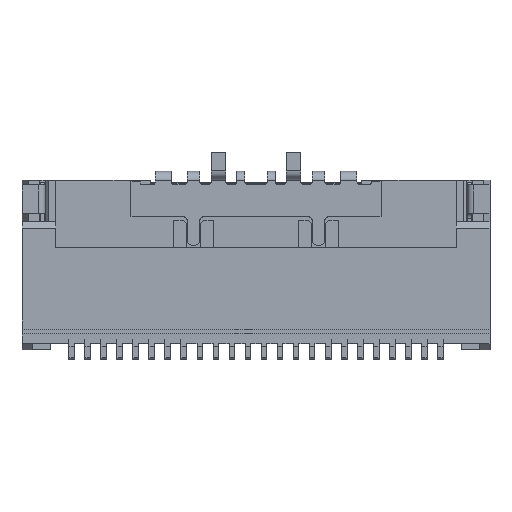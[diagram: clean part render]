
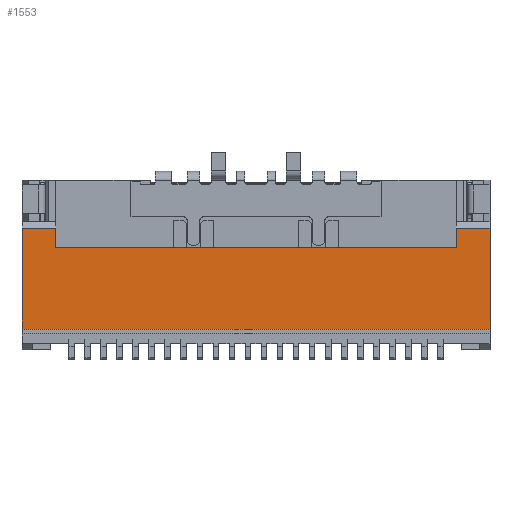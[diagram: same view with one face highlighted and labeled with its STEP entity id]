
A CAD part, front view. The second image highlights one B-rep face of the part: STEP entity #1553.
In plain terms, the highlighted planar face has unit normal (0, -1, 0).
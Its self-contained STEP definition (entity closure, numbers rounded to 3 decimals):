
#1553=ADVANCED_FACE('',(#4625),#4626,.T.);
#4625=FACE_OUTER_BOUND('',#7853,.T.);
#4626=PLANE('',#7854);
#7853=EDGE_LOOP('',(#21665,#21666,#21667,#21668,#21669,#21670,#21671,#21672));
#7854=AXIS2_PLACEMENT_3D('',#21673,#21674,#21675);
#21665=ORIENTED_EDGE('',*,*,#27907,.F.);
#21666=ORIENTED_EDGE('',*,*,#24908,.T.);
#21667=ORIENTED_EDGE('',*,*,#27906,.T.);
#21668=ORIENTED_EDGE('',*,*,#24925,.F.);
#21669=ORIENTED_EDGE('',*,*,#27908,.F.);
#21670=ORIENTED_EDGE('',*,*,#27909,.T.);
#21671=ORIENTED_EDGE('',*,*,#27910,.F.);
#21672=ORIENTED_EDGE('',*,*,#27911,.F.);
#21673=CARTESIAN_POINT('',(-7.3,-1.125,-1.5));
#21674=DIRECTION('',(0.0,-1.0,0.0));
#21675=DIRECTION('',(0.0,0.0,-1.0));
#24908=EDGE_CURVE('',#31520,#31518,#31521,.T.);
#24925=EDGE_CURVE('',#31544,#31546,#31547,.T.);
#27906=EDGE_CURVE('',#31518,#31546,#36227,.T.);
#27907=EDGE_CURVE('',#31520,#36228,#36229,.T.);
#27908=EDGE_CURVE('',#36230,#31544,#36231,.T.);
#27909=EDGE_CURVE('',#36230,#36232,#36233,.T.);
#27910=EDGE_CURVE('',#36234,#36232,#36235,.T.);
#27911=EDGE_CURVE('',#36228,#36234,#36236,.T.);
#31518=VERTEX_POINT('',#41284);
#31520=VERTEX_POINT('',#41287);
#31521=LINE('',#41288,#41289);
#31544=VERTEX_POINT('',#41327);
#31546=VERTEX_POINT('',#41330);
#31547=LINE('',#41331,#41332);
#36227=LINE('',#48561,#48562);
#36228=VERTEX_POINT('',#48563);
#36229=LINE('',#48564,#48565);
#36230=VERTEX_POINT('',#48566);
#36231=LINE('',#48567,#48568);
#36232=VERTEX_POINT('',#48569);
#36233=LINE('',#48570,#48571);
#36234=VERTEX_POINT('',#48572);
#36235=LINE('',#48573,#48574);
#36236=LINE('',#48575,#48576);
#41284=CARTESIAN_POINT('',(-7.3,-1.125,-4.65));
#41287=CARTESIAN_POINT('',(-7.3,-1.125,-1.5));
#41288=CARTESIAN_POINT('',(-7.3,-1.125,-1.5));
#41289=VECTOR('',#51444,3.15);
#41327=CARTESIAN_POINT('',(7.3,-1.125,-1.5));
#41330=CARTESIAN_POINT('',(7.3,-1.125,-4.65));
#41331=CARTESIAN_POINT('',(7.3,-1.125,-1.5));
#41332=VECTOR('',#51461,3.15);
#48561=CARTESIAN_POINT('',(-7.3,-1.125,-4.65));
#48562=VECTOR('',#55304,14.6);
#48563=CARTESIAN_POINT('',(-6.25,-1.125,-1.5));
#48564=CARTESIAN_POINT('',(-7.3,-1.125,-1.5));
#48565=VECTOR('',#55305,1.05);
#48566=CARTESIAN_POINT('',(6.25,-1.125,-1.5));
#48567=CARTESIAN_POINT('',(6.25,-1.125,-1.5));
#48568=VECTOR('',#55306,1.05);
#48569=CARTESIAN_POINT('',(6.25,-1.125,-2.11));
#48570=CARTESIAN_POINT('',(6.25,-1.125,-1.5));
#48571=VECTOR('',#55307,0.61);
#48572=CARTESIAN_POINT('',(-6.25,-1.125,-2.11));
#48573=CARTESIAN_POINT('',(-6.25,-1.125,-2.11));
#48574=VECTOR('',#55308,12.5);
#48575=CARTESIAN_POINT('',(-6.25,-1.125,-1.5));
#48576=VECTOR('',#55309,0.61);
#51444=DIRECTION('',(0.0,0.0,-1.0));
#51461=DIRECTION('',(0.0,0.0,-1.0));
#55304=DIRECTION('',(1.0,0.0,0.0));
#55305=DIRECTION('',(1.0,0.0,0.0));
#55306=DIRECTION('',(1.0,0.0,0.0));
#55307=DIRECTION('',(0.0,0.0,-1.0));
#55308=DIRECTION('',(1.0,0.0,0.0));
#55309=DIRECTION('',(0.0,0.0,-1.0));
